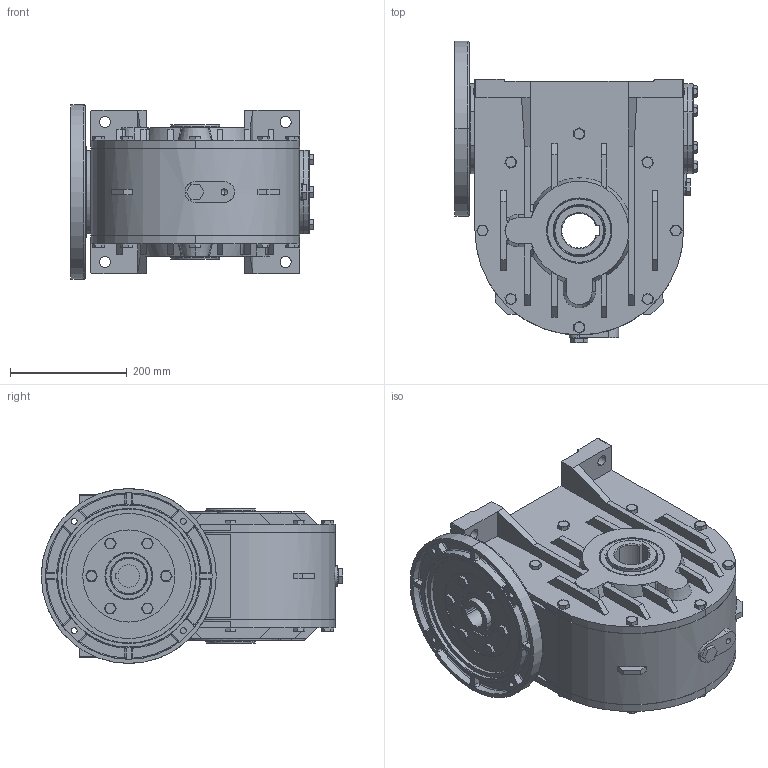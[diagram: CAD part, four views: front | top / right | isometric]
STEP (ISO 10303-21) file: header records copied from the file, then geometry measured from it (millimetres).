
FILE_DESCRIPTION (( 'STEP AP203' ), '1' );
FILE_NAME ('3F002536.STEP', '2012-07-26T07:55:30', ( 'Amministratore' ), ( 'SerteK sas' ), 'SwSTEP 2.0', 'SolidWorks 2009', '' );
FILE_SCHEMA (( 'CONFIG_CONTROL_DESIGN' ));
Products named in the file (1): 3F002536
Bounding box: 415.9 x 517 x 300 mm (x, y, z)
Surface area: 2050484 mm2 (no closed solid volume)
Topology: 0 solids, 29 shells, 1949 faces, 4985 edges, 3171 vertices
Faces by surface type: plane 720, cylinder 572, cone 355, bspline 302
Entity records: 84291 total; most frequent: CARTESIAN_POINT 38242, ORIENTED_EDGE 9850, DIRECTION 9430, EDGE_CURVE 4937, AXIS2_PLACEMENT_3D 3661, VERTEX_POINT 3171, EDGE_LOOP 2160, VECTOR 2108
